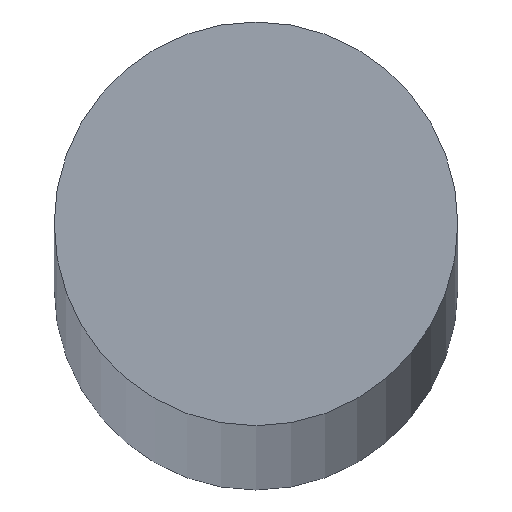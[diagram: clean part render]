
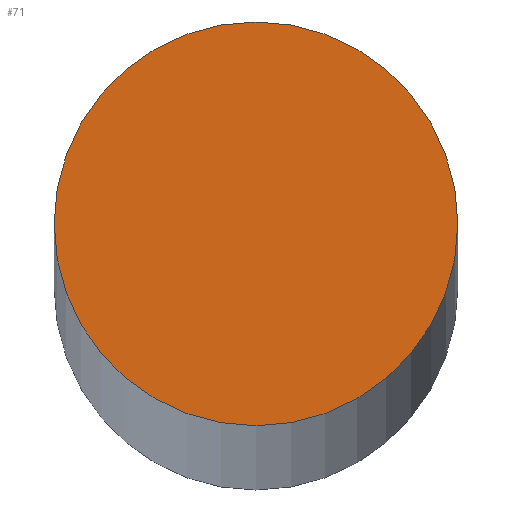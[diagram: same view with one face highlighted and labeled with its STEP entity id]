
A CAD part, top view. The second image highlights one B-rep face of the part: STEP entity #71.
In plain terms, the highlighted planar face has unit normal (0, 0, 1).
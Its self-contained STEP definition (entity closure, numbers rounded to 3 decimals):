
#4 = VERTEX_POINT ( 'NONE', #5 ) ;
#5 = CARTESIAN_POINT ( 'NONE',  ( -6., 0., 547.5 ) ) ;
#7 = VERTEX_POINT ( 'NONE', #11 ) ;
#11 = CARTESIAN_POINT ( 'NONE',  ( 6., 0., 547.5 ) ) ;
#24 = CARTESIAN_POINT ( 'NONE',  ( 0., 0., 547.5 ) ) ;
#25 = PLANE ( 'NONE',  #136 ) ;
#26 = DIRECTION ( 'NONE',  ( 0., 0., 1. ) ) ;
#27 = DIRECTION ( 'NONE',  ( 1., 0., 0. ) ) ;
#28 = CARTESIAN_POINT ( 'NONE',  ( 0., 0., 547.5 ) ) ;
#32 = CARTESIAN_POINT ( 'NONE',  ( 0., 0., 547.5 ) ) ;
#34 = DIRECTION ( 'NONE',  ( 0., 0., 1. ) ) ;
#35 = DIRECTION ( 'NONE',  ( 1., 0., 0. ) ) ;
#46 = DIRECTION ( 'NONE',  ( 0., 0., 1. ) ) ;
#47 = DIRECTION ( 'NONE',  ( 1., 0., 0. ) ) ;
#71 = ADVANCED_FACE ( 'NONE', ( #100 ), #25, .T. ) ;
#86 = EDGE_LOOP ( 'NONE', ( #87, #88 ) ) ;
#87 = ORIENTED_EDGE ( 'NONE', *, *, #122, .T. ) ;
#88 = ORIENTED_EDGE ( 'NONE', *, *, #135, .T. ) ;
#100 = FACE_OUTER_BOUND ( 'NONE', #86, .T. ) ;
#105 = CIRCLE ( 'NONE', #117, 6. ) ;
#109 = CIRCLE ( 'NONE', #125, 6. ) ;
#117 = AXIS2_PLACEMENT_3D ( 'NONE', #28, #34, #35 ) ;
#122 = EDGE_CURVE ( 'NONE', #4, #7, #105, .T. ) ;
#125 = AXIS2_PLACEMENT_3D ( 'NONE', #32, #46, #47 ) ;
#135 = EDGE_CURVE ( 'NONE', #7, #4, #109, .T. ) ;
#136 = AXIS2_PLACEMENT_3D ( 'NONE', #24, #26, #27 ) ;
